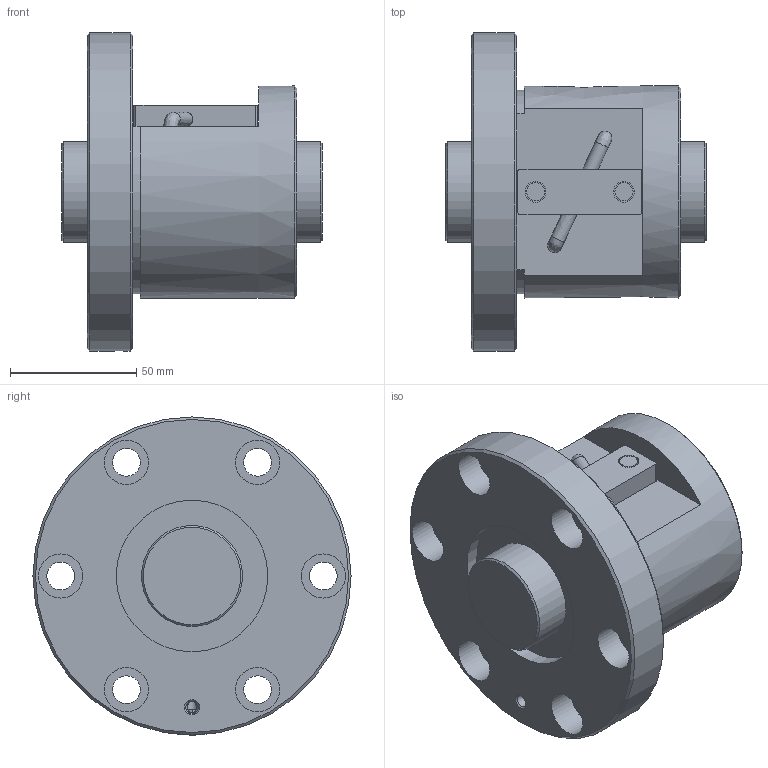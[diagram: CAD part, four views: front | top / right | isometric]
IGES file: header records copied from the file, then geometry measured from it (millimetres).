
Start section: Data from Parasolid IGES Translator 26.0.171, Copyright(c) 2006 Siemens PLM Software. All Rights Reserved.
Global section: file name: BNF4012V-2.5RRG1+103LC0_000_rev.igs; native system: By Siemens PLM Incorporated; preprocessor: XPlus GENERIC/IGES 26.0.171; author: Noname; organization: Noname; date: 20240806.084109; units: millimetre
Bounding box: 103 x 126 x 126 mm (x, y, z)
Surface area: 80577.7 mm2 (no closed solid volume)
Topology: 0 solids, 0 shells, 71 faces, 328 edges, 292 vertices
Faces by surface type: revolution 44, extrusion 27
